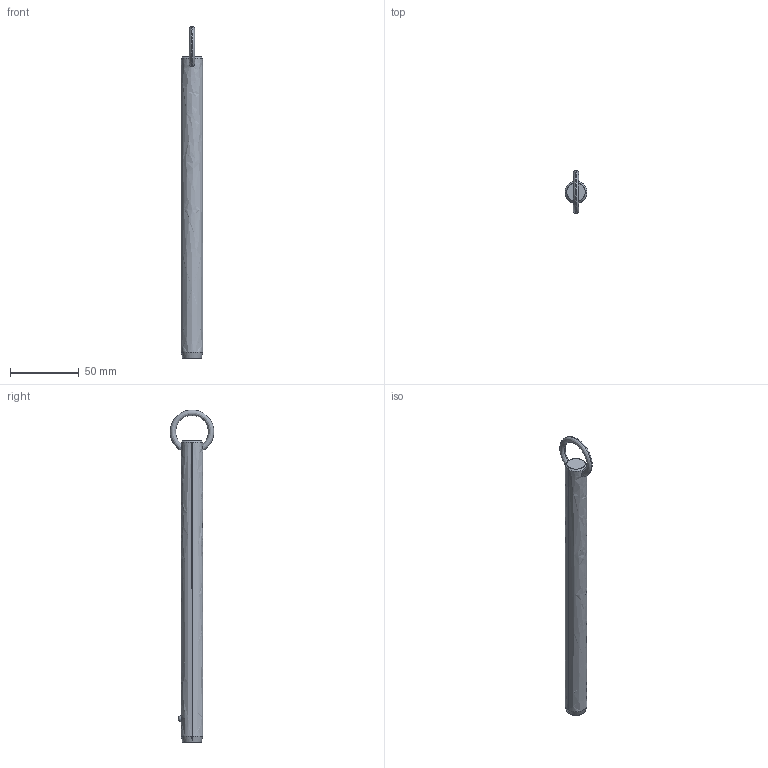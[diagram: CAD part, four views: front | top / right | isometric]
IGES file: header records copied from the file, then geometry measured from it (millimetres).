
Start section: SolidWorks IGES file using analytic representation for surfaces
Global section: file name: C:\Users\liam_\OneDrive\Documents\WORK\Work for WixRoyd\Job Files\J-00019 - Matt Davis CAD Checking\04. CAD Drawings\automotion20190605\P1250.2_v2\P1250.2_v2_20190729_IGES\P1250.062-750.igs; native system: SolidWorks 2017; preprocessor: SolidWorks 2017; author: liam_; date: 190729.234510; units: millimetre
Bounding box: 15.8 x 31.7 x 241.19 mm (x, y, z)
Surface area: 12044.4 mm2 (no closed solid volume)
Topology: 0 solids, 0 shells, 12 faces, 292 edges, 290 vertices
Faces by surface type: revolution 8, bspline 4
